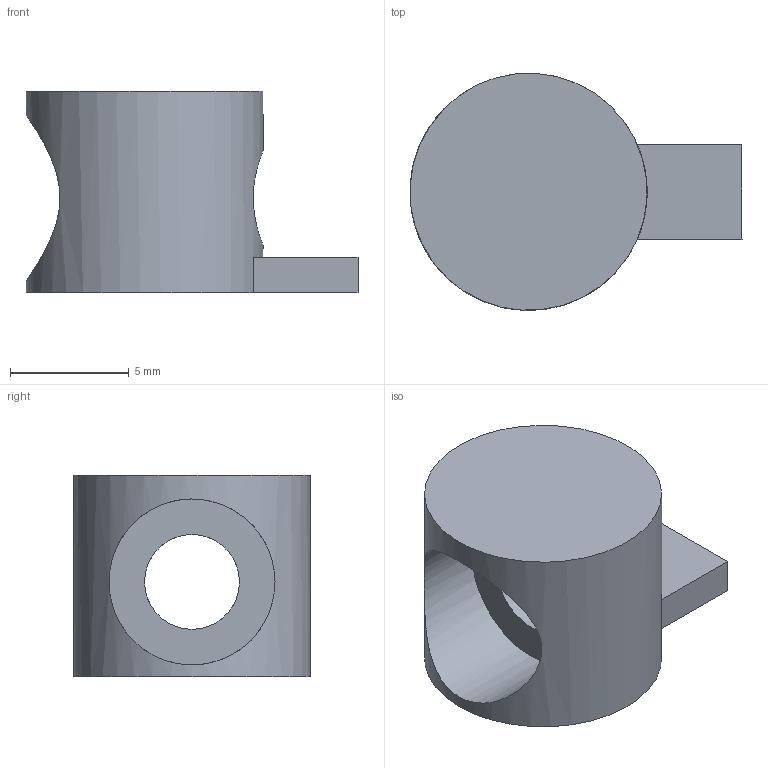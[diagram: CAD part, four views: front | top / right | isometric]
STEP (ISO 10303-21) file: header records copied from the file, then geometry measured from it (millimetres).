
FILE_DESCRIPTION(/* description */ (''),/* implementation_level */ '2;1');
FILE_NAME(/* name */ 'D:\cadd\new~產品型錄\連接件\4系列\AUJ3-204.stp',/* time_stamp */ '2016-12-09T16:26:28+08:00',/* author */ ('Owner'),/* organization */ (''),/* preprocessor_version */ 'ST-DEVELOPER v15.2',/* originating_system */ 'Autodesk Inventor 2014',/* authorisation */ '');
FILE_SCHEMA (('AUTOMOTIVE_DESIGN { 1 0 10303 214 3 1 1 }'));
Length unit declared in the file: millimetre
Products named in the file (1): AUJ3-204
Bounding box: 14 x 9.99 x 8.5 mm (x, y, z)
Volume: 470.5 mm3; surface area: 590 mm2
Topology: 1 solids, 1 shells, 10 faces, 24 edges, 16 vertices
Faces by surface type: plane 7, cylinder 3
Full cylindrical faces by diameter (mm): 4 x1, 7 x1, 10 x1
Entity records: 333 total; most frequent: CARTESIAN_POINT 107, DIRECTION 42, ORIENTED_EDGE 34, EDGE_CURVE 17, EDGE_LOOP 16, AXIS2_PLACEMENT_3D 16, VERTEX_POINT 13, LINE 10
